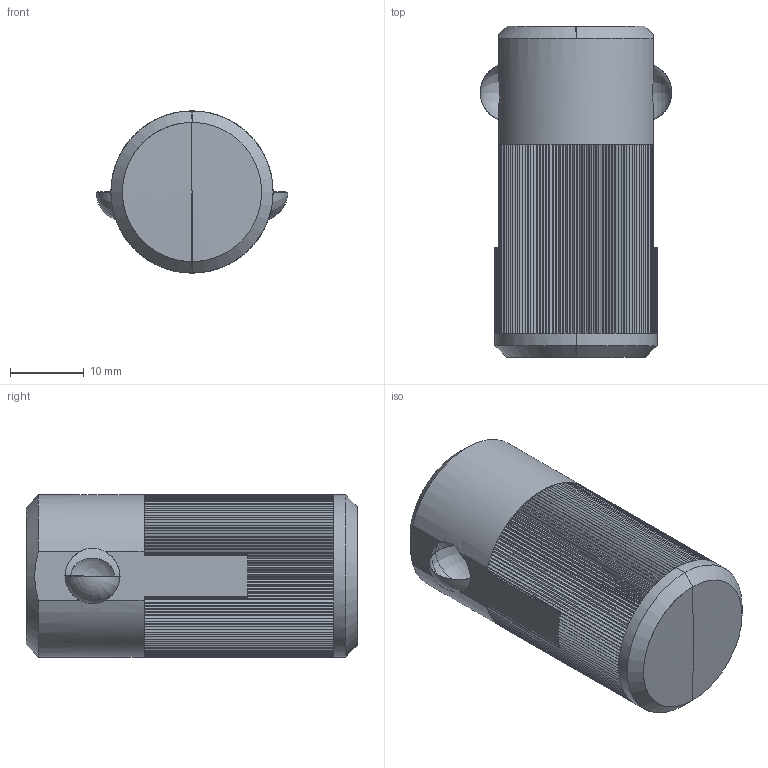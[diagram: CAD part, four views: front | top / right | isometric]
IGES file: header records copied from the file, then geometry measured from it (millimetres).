
Start section: SolidWorks IGES file using analytic representation for surfaces
Global section: file name: C:\Documents and Settings\IANO\Desktop\Temp File\Process pending\NEW\32800_v2\32800_v2_20170703_IGES\32800.W0622.igs; native system: SolidWorks 2009; preprocessor: SolidWorks 2009; author: IANO; date: 170630.125239; units: millimetre
Bounding box: 26 x 45 x 22 mm (x, y, z)
Surface area: 10369.6 mm2 (no closed solid volume)
Topology: 0 solids, 0 shells, 604 faces, 3050 edges, 3040 vertices
Faces by surface type: bspline 573, revolution 31
